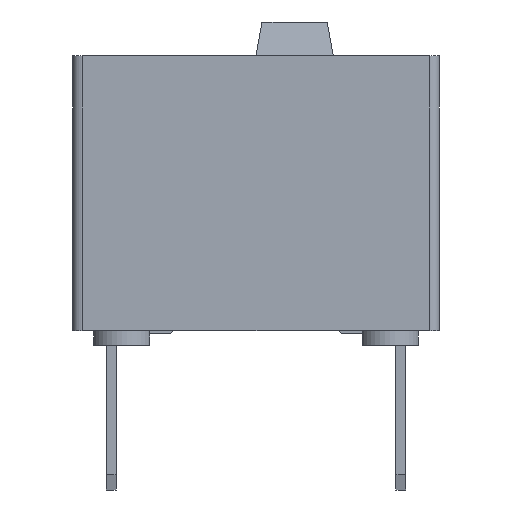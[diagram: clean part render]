
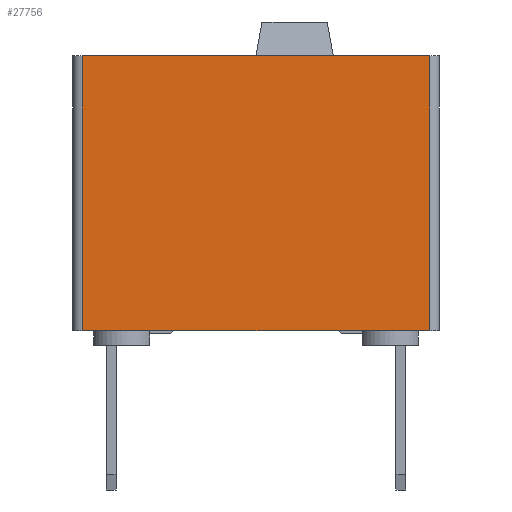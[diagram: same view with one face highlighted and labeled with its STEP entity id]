
A CAD part, left-side view. The second image highlights one B-rep face of the part: STEP entity #27756.
In plain terms, the highlighted planar face has unit normal (-1, 0, 0).
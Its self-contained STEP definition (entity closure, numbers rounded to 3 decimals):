
#34 = VERTEX_POINT ( 'NONE', #5324 ) ;
#566 = EDGE_LOOP ( 'NONE', ( #9674, #27716, #13372, #22962, #20918, #2037 ) ) ;
#1373 = LINE ( 'NONE', #10609, #20327 ) ;
#1900 = VECTOR ( 'NONE', #27259, 1000. ) ;
#2037 = ORIENTED_EDGE ( 'NONE', *, *, #5449, .T. ) ;
#2231 = VERTEX_POINT ( 'NONE', #4005 ) ;
#2958 = VECTOR ( 'NONE', #29708, 1000. ) ;
#4005 = CARTESIAN_POINT ( 'NONE',  ( 0., -9.402, -7.239 ) ) ;
#4425 = CARTESIAN_POINT ( 'NONE',  ( 0., -0.25, 0. ) ) ;
#4698 = CARTESIAN_POINT ( 'NONE',  ( 0., -8.357, -7.239 ) ) ;
#5238 = VECTOR ( 'NONE', #29832, 1000. ) ;
#5304 = VECTOR ( 'NONE', #16962, 1000. ) ;
#5324 = CARTESIAN_POINT ( 'NONE',  ( 0., -0.25, 0. ) ) ;
#5327 = FACE_OUTER_BOUND ( 'NONE', #566, .T. ) ;
#5449 = EDGE_CURVE ( 'NONE', #2231, #28008, #1373, .T. ) ;
#6555 = CARTESIAN_POINT ( 'NONE',  ( 0., -0.25, -7.239 ) ) ;
#8016 = PLANE ( 'NONE',  #26574 ) ;
#8165 = DIRECTION ( 'NONE',  ( -1., 0., 0. ) ) ;
#8417 = CARTESIAN_POINT ( 'NONE',  ( 0., -0.25, -7.239 ) ) ;
#8625 = EDGE_CURVE ( 'NONE', #10316, #2231, #22458, .T. ) ;
#9140 = VERTEX_POINT ( 'NONE', #8417 ) ;
#9224 = CARTESIAN_POINT ( 'NONE',  ( 0., -9.402, 0. ) ) ;
#9674 = ORIENTED_EDGE ( 'NONE', *, *, #11023, .F. ) ;
#10012 = LINE ( 'NONE', #28459, #5304 ) ;
#10316 = VERTEX_POINT ( 'NONE', #4698 ) ;
#10609 = CARTESIAN_POINT ( 'NONE',  ( 0., -9.402, -7.239 ) ) ;
#11023 = EDGE_CURVE ( 'NONE', #34, #28008, #29686, .T. ) ;
#12286 = DIRECTION ( 'NONE',  ( 0., -1., 0. ) ) ;
#13372 = ORIENTED_EDGE ( 'NONE', *, *, #19989, .T. ) ;
#14573 = CARTESIAN_POINT ( 'NONE',  ( 0., -0.25, -7.239 ) ) ;
#16962 = DIRECTION ( 'NONE',  ( 0., -1., 0. ) ) ;
#18185 = CARTESIAN_POINT ( 'NONE',  ( 0., -0.25, -7.239 ) ) ;
#19265 = CARTESIAN_POINT ( 'NONE',  ( 0., -0.25, -7.239 ) ) ;
#19341 = CARTESIAN_POINT ( 'NONE',  ( 0., -1.295, -7.239 ) ) ;
#19989 = EDGE_CURVE ( 'NONE', #9140, #21591, #10012, .T. ) ;
#20326 = LINE ( 'NONE', #18185, #5238 ) ;
#20327 = VECTOR ( 'NONE', #29350, 1000. ) ;
#20538 = EDGE_CURVE ( 'NONE', #9140, #34, #20326, .T. ) ;
#20918 = ORIENTED_EDGE ( 'NONE', *, *, #8625, .T. ) ;
#21552 = LINE ( 'NONE', #19265, #22202 ) ;
#21591 = VERTEX_POINT ( 'NONE', #19341 ) ;
#22202 = VECTOR ( 'NONE', #24094, 1000. ) ;
#22458 = LINE ( 'NONE', #6555, #2958 ) ;
#22962 = ORIENTED_EDGE ( 'NONE', *, *, #29353, .T. ) ;
#24094 = DIRECTION ( 'NONE',  ( 0., -1., 0. ) ) ;
#26574 = AXIS2_PLACEMENT_3D ( 'NONE', #14573, #8165, #12286 ) ;
#27259 = DIRECTION ( 'NONE',  ( 0., -1., 0. ) ) ;
#27716 = ORIENTED_EDGE ( 'NONE', *, *, #20538, .F. ) ;
#27756 = ADVANCED_FACE ( 'NONE', ( #5327 ), #8016, .T. ) ;
#28008 = VERTEX_POINT ( 'NONE', #9224 ) ;
#28459 = CARTESIAN_POINT ( 'NONE',  ( 0., -0.25, -7.239 ) ) ;
#29350 = DIRECTION ( 'NONE',  ( 0., 0., 1. ) ) ;
#29353 = EDGE_CURVE ( 'NONE', #21591, #10316, #21552, .T. ) ;
#29686 = LINE ( 'NONE', #4425, #1900 ) ;
#29708 = DIRECTION ( 'NONE',  ( 0., -1., 0. ) ) ;
#29832 = DIRECTION ( 'NONE',  ( 0., 0., 1. ) ) ;
